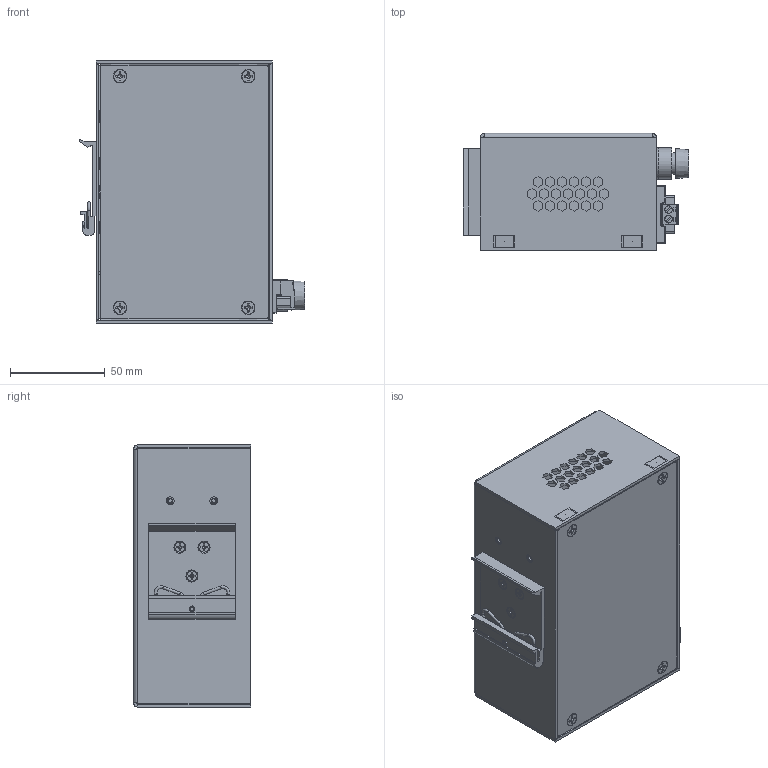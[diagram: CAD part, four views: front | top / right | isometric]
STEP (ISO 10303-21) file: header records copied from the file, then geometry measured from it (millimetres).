
FILE_DESCRIPTION(/* description */ ('STEP AP242','CAx-IF Rec.Pracs.---Representation and Presentation of Product Manufacturing Information (PMI)---4.0---2014-10-13','CAx-IF Rec.Pracs.---3D Tessellated Geometry---0.4---2014-09-14','2;1'),/* implementation_level */ '2;1');
FILE_NAME(/* name */ '666743f08204b538c4a636ed',/* time_stamp */ '2024-06-10T18:20:33Z',/* author */ (''),/* organization */ (''),/* preprocessor_version */ 'ST-DEVELOPER v20',/* originating_system */ ' ',/* authorisation */ ' ');
FILE_SCHEMA (('AP242_MANAGED_MODEL_BASED_3D_ENGINEERING_MIM_LF { 1 0 10303 442 1 1 4 }'));
Length unit declared in the file: metre
Products named in the file (41): AD-140 - Rev A - RLH-2401-1BP - 24VDC 1.2Ah DIN Mount Battery Pack; 91771A934_Passivated 18-8 Stainless Steel Phillips Flat Head Screw; 96640A342_Black-Oxide 18-8 Stainless Steel Phillips Flat Head Screws; 91771A936_Passivated 18-8 Stainless Steel Phillips Flat Head Screw; H-029; H-028 <1>; PEM CLS-440-2  ; H-028; 1; 2024_02_26_09_46_25_0475 <1>; 2024_02_26_09_46_25_0709; 2024_02_26_09_46_25_0693; 2024_02_26_09_46_25_0725; 2024_02_26_09_46_25_0647; 2024_02_26_09_46_25_0740; 2023_11_15_08_25_29_0485 <1>; 2023_11_15_08_25_29_0907; 2023_11_15_08_25_29_0782; 2023_11_15_08_25_29_0829; 2023_11_15_08_25_29_0923; 2023_11_15_08_25_29_0860; 2023_11_15_08_25_29_0876; 2023_11_15_08_25_29_0845; 2023_11_15_08_25_29_0938; 2023_11_15_08_25_29_0892; DIN Clip <1>; Spring 0.125; 0.125 x 0.250 slotted spring pin; DIN Clip; Fuse Holder <1>; 13; 15; 14; 10; 7; 6; 8; 9; 16; 17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
Assembly tree (55 placements, depth 3):
  AD-140 - Rev A - RLH-2401-1BP - 24VDC 1.2Ah DIN Mount Battery Pack
    91771A934_Passivated 18-8 Stainless Steel Phillips Flat Head Screw  x3
    96640A342_Black-Oxide 18-8 Stainless Steel Phillips Flat Head Screws  x4
    91771A936_Passivated 18-8 Stainless Steel Phillips Flat Head Screw  x2
    H-029
    H-028 <1>
      PEM CLS-440-2    x7
      H-028
      1  x4
    2024_02_26_09_46_25_0475 <1>
      2024_02_26_09_46_25_0709
      2024_02_26_09_46_25_0693
      2024_02_26_09_46_25_0725
      2024_02_26_09_46_25_0647
      2024_02_26_09_46_25_0740
    2023_11_15_08_25_29_0485 <1>
      2023_11_15_08_25_29_0907
      2023_11_15_08_25_29_0782
      2023_11_15_08_25_29_0829
      2023_11_15_08_25_29_0923
      2023_11_15_08_25_29_0860
      2023_11_15_08_25_29_0876
      2023_11_15_08_25_29_0845
      2023_11_15_08_25_29_0938
      2023_11_15_08_25_29_0892
    DIN Clip <1>
      Spring 0.125
      0.125 x 0.250 slotted spring pin
      DIN Clip
    Fuse Holder <1>
      13
      15
      14
      10
      7
      6
      8
      9
      16
      17
      11
Bounding box: 119 x 61.72 x 138.23 mm (x, y, z)
Volume: 101334.7 mm3; surface area: 136633.7 mm2
Topology: 50 solids, 70 shells, 2733 faces, 7523 edges, 4989 vertices
Faces by surface type: plane 2141, cylinder 343, cone 131, bspline 81, torus 20, sphere 17
Full cylindrical faces by diameter (mm): 0.172 x4, 0.222 x4, 1.5 x10, 1.53 x4, 1.905 x1, 2 x2, 2.156 x7, 2.5 x2, 2.6 x2, 2.647 x4, 2.845 x45, 3 x12, 3.264 x2, 3.505 x36, 3.6 x2, 3.8 x2, 3.81 x3, 3.821 x2, 3.9 x2, 4 x6, 4.191 x7, 4.216 x7, 4.445 x1, 6 x2, 6.35 x7, 6.985 x2, 7.62 x2, 8.89 x1, 10.16 x2, 11.43 x19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
Entity records: 45649 total; most frequent: CARTESIAN_POINT 10887, ORIENTED_EDGE 6932, DIRECTION 6608, EDGE_CURVE 3466, LINE 2730, VECTOR 2730, VERTEX_POINT 2386, AXIS2_PLACEMENT_3D 1939
